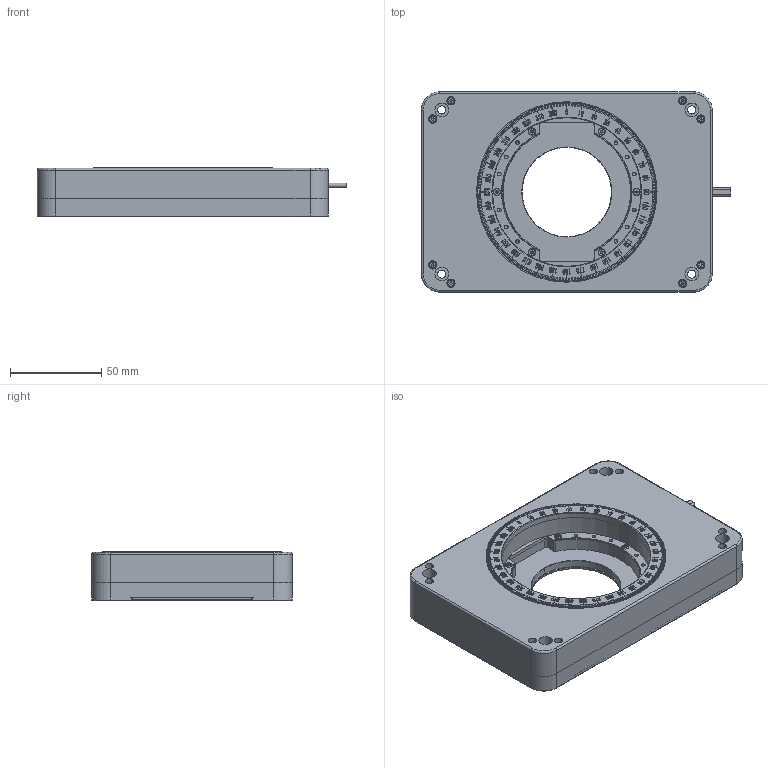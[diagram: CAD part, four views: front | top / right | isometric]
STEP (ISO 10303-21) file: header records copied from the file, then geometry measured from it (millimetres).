
FILE_DESCRIPTION (( 'STEP AP214' ), '1' );
FILE_NAME ('N61.R5E-C1压电旋转台3D图（21.05.20）.STEP', '2022-02-09T01:54:05', ( 'Sky123.Org' ), ( 'Sky123.Org' ), 'SwSTEP 2.0', 'SolidWorks 2016', '' );
FILE_SCHEMA (( 'AUTOMOTIVE_DESIGN' ));
Length unit declared in the file: millimetre
Products named in the file (1): N61.R5E-C1压电旋转台3D图（21.05.20）
Bounding box: 169.6 x 109.7 x 27 mm (x, y, z)
Volume: 181573.9 mm3; surface area: 146458.4 mm2
Topology: 33 solids, 33 shells, 4794 faces, 12200 edges, 7988 vertices
Faces by surface type: plane 3143, bspline 949, cylinder 502, cone 200
Entity records: 244671 total; most frequent: CARTESIAN_POINT 81265, ORIENTED_EDGE 24224, DIRECTION 19130, EDGE_CURVE 12112, VECTOR 9026, LINE 9026, VERTEX_POINT 7988, EDGE_LOOP 5518
